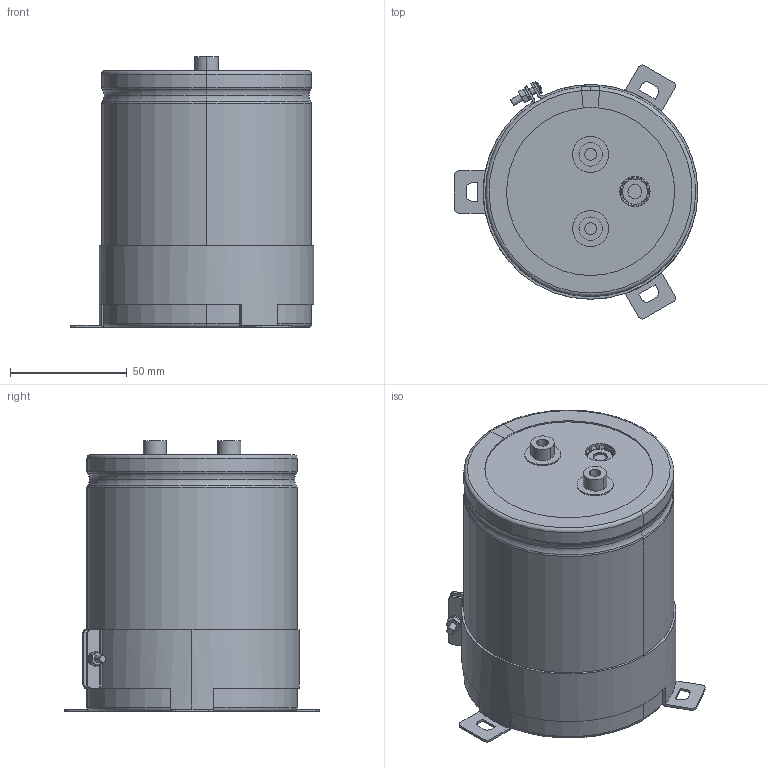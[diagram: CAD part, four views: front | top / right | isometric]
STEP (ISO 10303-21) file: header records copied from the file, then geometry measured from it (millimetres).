
FILE_DESCRIPTION(('STEP AP214'),'1');
FILE_NAME('90x110_Screw.stp','2022-03-14T08:03:19',(' '),(' '),'Spatial InterOp 3D',' ',' ');
FILE_SCHEMA(('AUTOMOTIVE_DESIGN { 1 0 10303 214 1 1 1 1 }'));
Length unit declared in the file: metre
Products named in the file (10): 90x110_Screw; Component1; Component2; Component3; Component4; Component5; Component6; Component7; Component8; Component9
Assembly tree (9 placements, depth 2):
  90x110_Screw
    Component1
    Component2
    Component3
    Component4
    Component5
    Component6
    Component7
    Component8
    Component9
Bounding box: 104.5 x 108.86 x 116 mm (x, y, z)
Volume: 702350.1 mm3; surface area: 132983.8 mm2
Topology: 9 solids, 9 shells, 352 faces, 873 edges, 551 vertices
Faces by surface type: plane 112, cylinder 110, torus 90, cone 38, sphere 2
Entity records: 11474 total; most frequent: DIRECTION 2126, CARTESIAN_POINT 1918, ORIENTED_EDGE 1746, AXIS2_PLACEMENT_3D 919, EDGE_CURVE 873, VERTEX_POINT 551, CIRCLE 511, EDGE_LOOP 380
